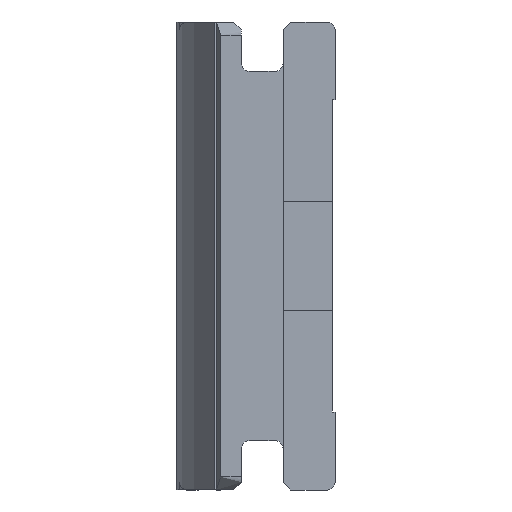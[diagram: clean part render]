
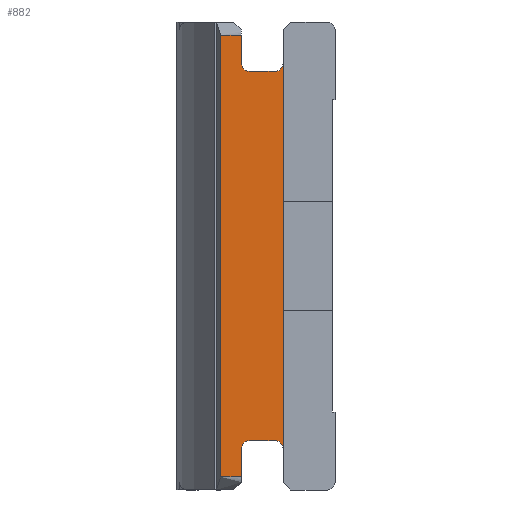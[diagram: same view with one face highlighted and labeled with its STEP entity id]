
A CAD part, left-side view. The second image highlights one B-rep face of the part: STEP entity #882.
In plain terms, the highlighted planar face has unit normal (-1, 0, 0).
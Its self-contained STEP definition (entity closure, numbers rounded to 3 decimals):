
#29 = CARTESIAN_POINT ( 'NONE',  ( 10., 3.5, -7.4 ) ) ;
#56 = CIRCLE ( 'NONE', #1719, 0.3 ) ;
#94 = CARTESIAN_POINT ( 'NONE',  ( 10., 2.2, -7.4 ) ) ;
#131 = DIRECTION ( 'NONE',  ( 0., 0., -1. ) ) ;
#182 = AXIS2_PLACEMENT_3D ( 'NONE', #1264, #687, #400 ) ;
#194 = LINE ( 'NONE', #1811, #910 ) ;
#201 = VERTEX_POINT ( 'NONE', #954 ) ;
#203 = EDGE_CURVE ( 'NONE', #496, #757, #194, .T. ) ;
#206 = ORIENTED_EDGE ( 'NONE', *, *, #753, .F. ) ;
#209 = AXIS2_PLACEMENT_3D ( 'NONE', #1564, #1710, #1825 ) ;
#218 = ORIENTED_EDGE ( 'NONE', *, *, #1816, .F. ) ;
#237 = ORIENTED_EDGE ( 'NONE', *, *, #203, .F. ) ;
#243 = DIRECTION ( 'NONE',  ( 0., -1., 0. ) ) ;
#257 = VERTEX_POINT ( 'NONE', #512 ) ;
#278 = LINE ( 'NONE', #986, #844 ) ;
#304 = AXIS2_PLACEMENT_3D ( 'NONE', #94, #672, #1257 ) ;
#308 = DIRECTION ( 'NONE',  ( 0., 0., -1. ) ) ;
#314 = EDGE_CURVE ( 'NONE', #708, #1343, #1690, .T. ) ;
#343 = DIRECTION ( 'NONE',  ( 0., 0., -1. ) ) ;
#386 = LINE ( 'NONE', #1557, #1502 ) ;
#400 = DIRECTION ( 'NONE',  ( 0., 0., -1. ) ) ;
#410 = VERTEX_POINT ( 'NONE', #1579 ) ;
#440 = CARTESIAN_POINT ( 'NONE',  ( 10., 1.9, 8.5 ) ) ;
#462 = LINE ( 'NONE', #1289, #846 ) ;
#496 = VERTEX_POINT ( 'NONE', #1301 ) ;
#499 = EDGE_CURVE ( 'NONE', #201, #1068, #462, .T. ) ;
#512 = CARTESIAN_POINT ( 'NONE',  ( 10., 3.5, -8.5 ) ) ;
#548 = VECTOR ( 'NONE', #922, 1000. ) ;
#564 = FACE_OUTER_BOUND ( 'NONE', #1141, .T. ) ;
#576 = CIRCLE ( 'NONE', #304, 0.3 ) ;
#592 = CARTESIAN_POINT ( 'NONE',  ( 10., 3.5, -8.7 ) ) ;
#594 = DIRECTION ( 'NONE',  ( 0., 1., 0. ) ) ;
#612 = ORIENTED_EDGE ( 'NONE', *, *, #1169, .F. ) ;
#648 = CARTESIAN_POINT ( 'NONE',  ( 10., 3.2, 7.1 ) ) ;
#657 = CARTESIAN_POINT ( 'NONE',  ( 10., 3.5, 7.4 ) ) ;
#662 = DIRECTION ( 'NONE',  ( 0., 0., 1. ) ) ;
#672 = DIRECTION ( 'NONE',  ( -1., 0., 0. ) ) ;
#687 = DIRECTION ( 'NONE',  ( -1., 0., 0. ) ) ;
#708 = VERTEX_POINT ( 'NONE', #657 ) ;
#727 = CARTESIAN_POINT ( 'NONE',  ( 10., 2.2, -7.1 ) ) ;
#750 = LINE ( 'NONE', #592, #1863 ) ;
#753 = EDGE_CURVE ( 'NONE', #1343, #410, #789, .T. ) ;
#757 = VERTEX_POINT ( 'NONE', #778 ) ;
#767 = CARTESIAN_POINT ( 'NONE',  ( 10., 2.2, 7.4 ) ) ;
#778 = CARTESIAN_POINT ( 'NONE',  ( 10., 4.3, 8.5 ) ) ;
#789 = LINE ( 'NONE', #648, #548 ) ;
#844 = VECTOR ( 'NONE', #131, 1000. ) ;
#846 = VECTOR ( 'NONE', #1756, 1000. ) ;
#849 = CARTESIAN_POINT ( 'NONE',  ( 10., 3.5, 8.5 ) ) ;
#850 = ORIENTED_EDGE ( 'NONE', *, *, #314, .F. ) ;
#851 = ORIENTED_EDGE ( 'NONE', *, *, #1651, .F. ) ;
#856 = EDGE_CURVE ( 'NONE', #1797, #1771, #1594, .T. ) ;
#875 = CARTESIAN_POINT ( 'NONE',  ( 10., 3.2, -7.1 ) ) ;
#882 = ADVANCED_FACE ( 'NONE', ( #564 ), #1135, .F. ) ;
#901 = LINE ( 'NONE', #440, #1715 ) ;
#910 = VECTOR ( 'NONE', #662, 1000. ) ;
#922 = DIRECTION ( 'NONE',  ( 0., -1., 0. ) ) ;
#954 = CARTESIAN_POINT ( 'NONE',  ( 10., 1.9, 7.4 ) ) ;
#986 = CARTESIAN_POINT ( 'NONE',  ( 10., 3.5, 8.7 ) ) ;
#1042 = DIRECTION ( 'NONE',  ( 0., 1., 0. ) ) ;
#1043 = CARTESIAN_POINT ( 'NONE',  ( 10., 3.2, -7.1 ) ) ;
#1058 = DIRECTION ( 'NONE',  ( -1., 0., 0. ) ) ;
#1068 = VERTEX_POINT ( 'NONE', #1177 ) ;
#1114 = CARTESIAN_POINT ( 'NONE',  ( 10., 3.2, 7.1 ) ) ;
#1135 = PLANE ( 'NONE',  #209 ) ;
#1141 = EDGE_LOOP ( 'NONE', ( #851, #1211, #237, #1806, #1645, #1335, #218, #1391, #1318, #612, #206, #850 ) ) ;
#1169 = EDGE_CURVE ( 'NONE', #410, #201, #56, .T. ) ;
#1177 = CARTESIAN_POINT ( 'NONE',  ( 10., 1.9, -7.4 ) ) ;
#1180 = VECTOR ( 'NONE', #594, 1000. ) ;
#1211 = ORIENTED_EDGE ( 'NONE', *, *, #1499, .T. ) ;
#1253 = CARTESIAN_POINT ( 'NONE',  ( 10., 3.2, -7.4 ) ) ;
#1257 = DIRECTION ( 'NONE',  ( 0., 0., -1. ) ) ;
#1264 = CARTESIAN_POINT ( 'NONE',  ( 10., 3.2, 7.4 ) ) ;
#1289 = CARTESIAN_POINT ( 'NONE',  ( 10., 1.9, -29.536 ) ) ;
#1301 = CARTESIAN_POINT ( 'NONE',  ( 10., 4.3, -8.5 ) ) ;
#1306 = EDGE_CURVE ( 'NONE', #1068, #1428, #576, .T. ) ;
#1318 = ORIENTED_EDGE ( 'NONE', *, *, #499, .F. ) ;
#1335 = ORIENTED_EDGE ( 'NONE', *, *, #856, .F. ) ;
#1343 = VERTEX_POINT ( 'NONE', #1114 ) ;
#1376 = VERTEX_POINT ( 'NONE', #849 ) ;
#1391 = ORIENTED_EDGE ( 'NONE', *, *, #1306, .F. ) ;
#1428 = VERTEX_POINT ( 'NONE', #727 ) ;
#1473 = LINE ( 'NONE', #875, #1180 ) ;
#1499 = EDGE_CURVE ( 'NONE', #1376, #757, #901, .T. ) ;
#1502 = VECTOR ( 'NONE', #243, 1000. ) ;
#1555 = EDGE_CURVE ( 'NONE', #1771, #257, #750, .T. ) ;
#1557 = CARTESIAN_POINT ( 'NONE',  ( 10., 1.9, -8.5 ) ) ;
#1564 = CARTESIAN_POINT ( 'NONE',  ( 10., 1.9, -29.536 ) ) ;
#1579 = CARTESIAN_POINT ( 'NONE',  ( 10., 2.2, 7.1 ) ) ;
#1594 = CIRCLE ( 'NONE', #1838, 0.3 ) ;
#1645 = ORIENTED_EDGE ( 'NONE', *, *, #1555, .F. ) ;
#1651 = EDGE_CURVE ( 'NONE', #1376, #708, #278, .T. ) ;
#1681 = DIRECTION ( 'NONE',  ( 0., 0., -1. ) ) ;
#1686 = EDGE_CURVE ( 'NONE', #496, #257, #386, .T. ) ;
#1690 = CIRCLE ( 'NONE', #182, 0.3 ) ;
#1694 = DIRECTION ( 'NONE',  ( -1., 0., 0. ) ) ;
#1710 = DIRECTION ( 'NONE',  ( 1., 0., 0. ) ) ;
#1715 = VECTOR ( 'NONE', #1042, 1000. ) ;
#1719 = AXIS2_PLACEMENT_3D ( 'NONE', #767, #1058, #343 ) ;
#1756 = DIRECTION ( 'NONE',  ( 0., 0., -1. ) ) ;
#1771 = VERTEX_POINT ( 'NONE', #29 ) ;
#1797 = VERTEX_POINT ( 'NONE', #1043 ) ;
#1806 = ORIENTED_EDGE ( 'NONE', *, *, #1686, .T. ) ;
#1811 = CARTESIAN_POINT ( 'NONE',  ( 10., 4.3, -29.536 ) ) ;
#1816 = EDGE_CURVE ( 'NONE', #1428, #1797, #1473, .T. ) ;
#1825 = DIRECTION ( 'NONE',  ( 0., 0., -1. ) ) ;
#1838 = AXIS2_PLACEMENT_3D ( 'NONE', #1253, #1694, #1681 ) ;
#1863 = VECTOR ( 'NONE', #308, 1000. ) ;
